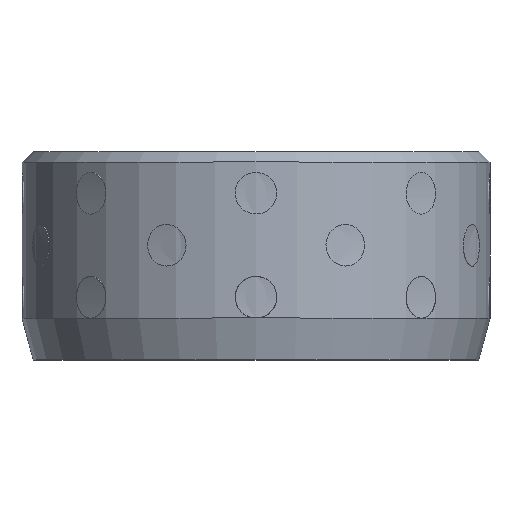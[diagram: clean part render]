
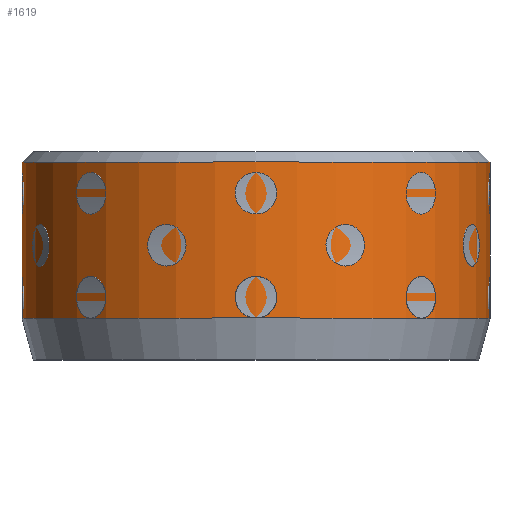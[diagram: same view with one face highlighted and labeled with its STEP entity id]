
A CAD part, top view. The second image highlights one B-rep face of the part: STEP entity #1619.
In plain terms, the highlighted cylindrical face has radius 22.5 mm (diameter 45 mm), a full revolution.
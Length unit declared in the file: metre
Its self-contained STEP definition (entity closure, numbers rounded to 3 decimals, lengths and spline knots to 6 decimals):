
#1619 = ADVANCED_FACE( '', ( #1737, #1738 ), #1739, .T. );
#1737 = FACE_OUTER_BOUND( '', #1985, .T. );
#1738 = FACE_OUTER_BOUND( '', #1986, .T. );
#1739 = CYLINDRICAL_SURFACE( '', #1987, 0.0225 );
#1985 = EDGE_LOOP( '', ( #2245 ) );
#1986 = EDGE_LOOP( '', ( #2246 ) );
#1987 = AXIS2_PLACEMENT_3D( '', #2247, #2248, #2249 );
#2245 = ORIENTED_EDGE( '', *, *, #2678, .T. );
#2246 = ORIENTED_EDGE( '', *, *, #2677, .F. );
#2247 = CARTESIAN_POINT( '', ( 0., 0., 0. ) );
#2248 = DIRECTION( '', ( 0., 1., 0. ) );
#2249 = DIRECTION( '', ( 0., 0., -1. ) );
#2677 = EDGE_CURVE( '', #2755, #2755, #2756, .T. );
#2678 = EDGE_CURVE( '', #2757, #2757, #2758, .T. );
#2755 = VERTEX_POINT( '', #2899 );
#2756 = CIRCLE( '', #2900, 0.0225 );
#2757 = VERTEX_POINT( '', #2901 );
#2758 = CIRCLE( '', #2902, 0.0225 );
#2899 = CARTESIAN_POINT( '', ( 0., 0.004, -0.0225 ) );
#2900 = AXIS2_PLACEMENT_3D( '', #6441, #6442, #6443 );
#2901 = CARTESIAN_POINT( '', ( 0., 0.019, -0.0225 ) );
#2902 = AXIS2_PLACEMENT_3D( '', #6444, #6445, #6446 );
#6441 = CARTESIAN_POINT( '', ( 0., 0.004, 0. ) );
#6442 = DIRECTION( '', ( 0., -1., 0. ) );
#6443 = DIRECTION( '', ( 0., 0., -1. ) );
#6444 = CARTESIAN_POINT( '', ( 0., 0.019, 0. ) );
#6445 = DIRECTION( '', ( 0., -1., 0. ) );
#6446 = DIRECTION( '', ( 0., 0., -1. ) );
